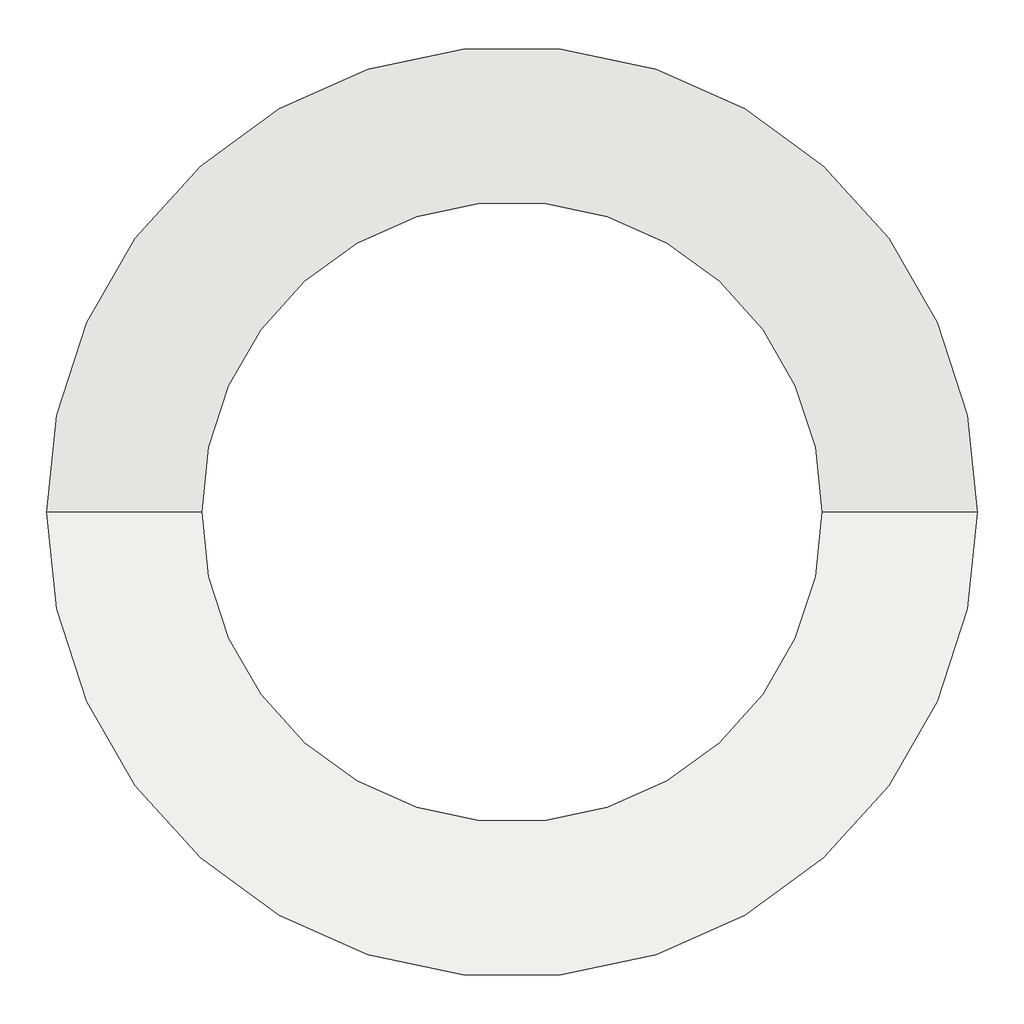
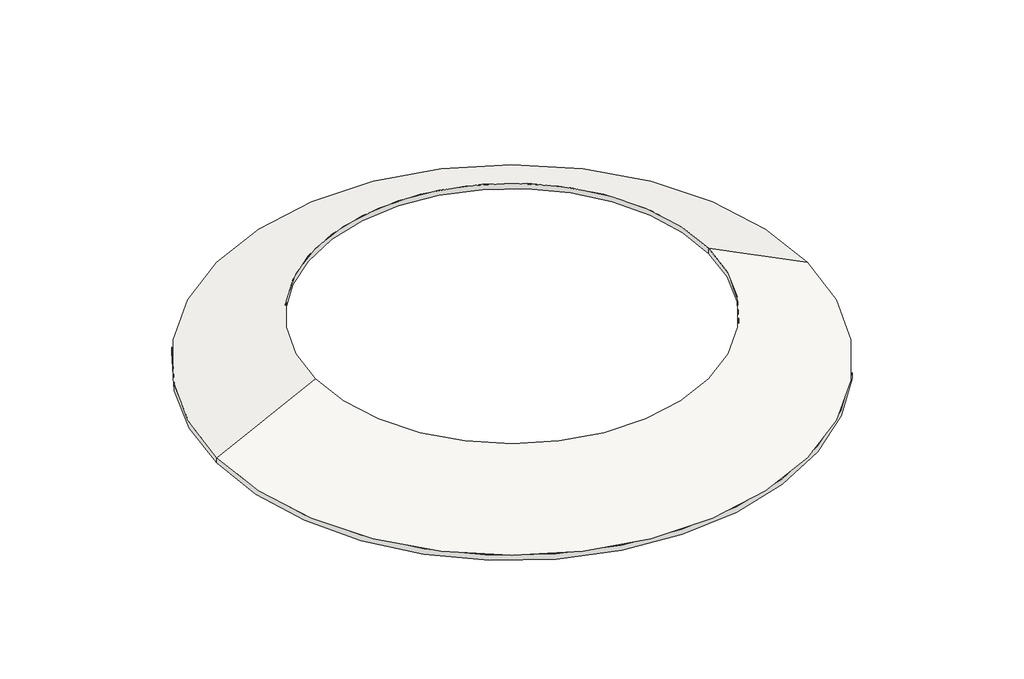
# One storey: 1 roof.
"""IFC4 building model written with IfcOpenShell, lengths in millimetres."""

from ifc_helpers import new_model, si_unit, frame, origin, place, context, project, spatial, polyline, circle_curve, element, save
from ifc_brep_helpers import cylinder_surface, revolved_surface, advanced_brep

model = new_model("IFC4")

# Units and contexts
model_context = context("Model", 3, world=origin())
ifc_project = project(units=[si_unit("LENGTHUNIT", "METRE", prefix="MILLI")], contexts=[model_context])

# Site, building, storey
site = spatial("IfcSite", under=ifc_project)
building = spatial("IfcBuilding", under=site)
storey = spatial("IfcBuildingStorey", under=building, Name="标高 1", Elevation=0.0)

# Roof
placement = place(None, origin())
element("IfcRoof", 1, ObjectType="常规 -100mm", at=placement, inside=storey, context=model_context, shape_type="AdvancedBrep", body=[
    advanced_brep(
    [(-6455.5538306, 332.3324224, 0.0), (5544.4461694, 332.3324224, 0.0), (3544.8779611, 332.3324224, 1000.0), (-4455.9856222, 332.3324224, 1000.0), (5544.4461694, 332.3324224, 111.8082279), (-6455.5538306, 332.3324224, 111.8082279), (-4455.9856222, 332.3324224, 1111.8082279), (3544.8779611, 332.3324224, 1111.8082279)],
    [
        (0, 1, circle_curve(frame((-455.5538306, 332.3324224, 0.0), z_axis=(0.0, 0.0, -1.0), x_axis=(1.0, 0.0, 0.0)), 6000.0)),
        (1, 2),
        (2, 3, circle_curve(frame((-455.5538306, 332.3324224, 1000.0), z_axis=(0.0, 0.0, 1.0), x_axis=(1.0, 0.0, 0.0)), 4000.4317917)),
        (3, 0),
        (1, 0, circle_curve(frame((-455.5538306, 332.3324224, 0.0), z_axis=(0.0, 0.0, -1.0), x_axis=(1.0, 0.0, 0.0)), 6000.0)),
        (3, 2, circle_curve(frame((-455.5538306, 332.3324224, 1000.0), z_axis=(0.0, 0.0, 1.0), x_axis=(1.0, 0.0, 0.0)), 4000.4317917)),
        (4, 5, circle_curve(frame((-455.5538306, 332.3324224, 111.8082279), z_axis=(0.0, 0.0, 1.0), x_axis=(1.0, 0.0, 0.0)), 6000.0)),
        (5, 6),
        (6, 7, circle_curve(frame((-455.5538306, 332.3324224, 1111.8082279), z_axis=(0.0, 0.0, -1.0), x_axis=(1.0, 0.0, 0.0)), 4000.4317917)),
        (7, 4),
        (5, 4, circle_curve(frame((-455.5538306, 332.3324224, 111.8082279), z_axis=(0.0, 0.0, 1.0), x_axis=(1.0, 0.0, 0.0)), 6000.0)),
        (7, 6, circle_curve(frame((-455.5538306, 332.3324224, 1111.8082279), z_axis=(0.0, 0.0, -1.0), x_axis=(1.0, 0.0, 0.0)), 4000.4317917)),
        (5, 0),
        (1, 4),
        (3, 6),
        (7, 2),
    ],
    [
        revolved_surface(polyline([(-6455.5538306, 332.3324224, 0.0), (-4455.98562229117, 332.3324224, 1000.0)]), (-455.5538306, 332.3324224, 3000.6478274), (0.0, 0.0, -1.0)),
        revolved_surface(polyline([(5544.4461694, 332.3324224, 0.0), (3544.8779610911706, 332.3324224, 1000.0)]), (-455.5538306, 332.3324224, 3000.6478274), (0.0, 0.0, -1.0)),
        revolved_surface(polyline([(3544.8779610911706, 332.3324224, 1111.8082279), (5544.4461694, 332.3324224, 111.80822790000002)]), (-455.5538306, 332.3324224, 3112.4560553), (0.0, 0.0, -1.0)),
        revolved_surface(polyline([(-4455.98562229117, 332.3324224, 1111.8082279), (-6455.5538306, 332.3324224, 111.80822790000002)]), (-455.5538306, 332.3324224, 3112.4560553), (0.0, 0.0, -1.0)),
        cylinder_surface(frame((-455.5538306, 332.3324224, 0.0), z_axis=(0.0, 0.0, 1.0), x_axis=(0.0, -1.0, 0.0)), 6000.0),
        cylinder_surface(frame((-455.5538306, 332.3324224, 0.0), z_axis=(0.0, 0.0, 1.0), x_axis=(0.0, 1.0, 0.0)), 6000.0),
        revolved_surface(polyline([(3544.8779611, 332.3324224, 1111.8082279), (3544.8779611, 332.3324224, 1000.0)]), (-455.5538306, 332.3324224, 695.2), (0.0, 0.0, 1.0)),
    ],
    [
        (0, [[1, 2, 3, 4]]),
        (1, [[5, -4, 6, -2]]),
        (2, [[7, 8, 9, 10]]),
        (3, [[11, -10, 12, -8]]),
        (4, [[-11, 13, -5, 14]]),
        (5, [[-7, -14, -1, -13]]),
        (6, [[15, -12, 16, -6]]),
        (6, [[-15, -3, -16, -9]]),
    ],
),
])

save(model, "model.ifc")
